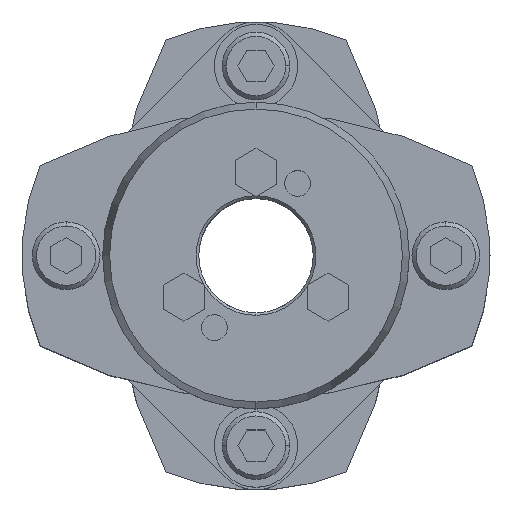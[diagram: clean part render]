
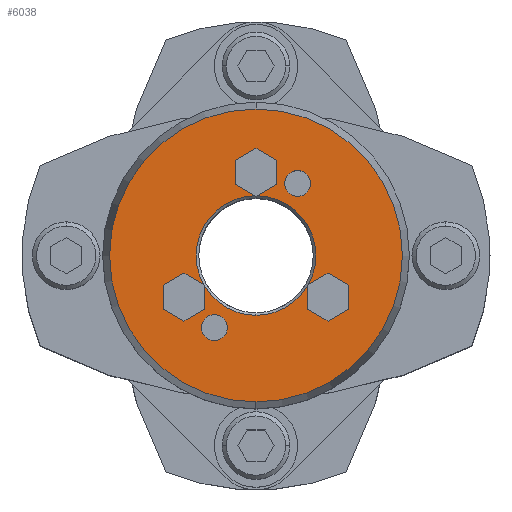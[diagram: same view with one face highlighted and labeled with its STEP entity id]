
A CAD part, top view. The second image highlights one B-rep face of the part: STEP entity #6038.
In plain terms, the highlighted planar face has unit normal (0, 0, 1).
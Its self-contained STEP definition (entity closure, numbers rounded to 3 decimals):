
#1694=CARTESIAN_POINT('',(0.,-11.5,52.0));
#1695=VERTEX_POINT('',#1694);
#1702=CARTESIAN_POINT('',(9.856,-5.925,52.0));
#1703=VERTEX_POINT('',#1702);
#1704=CARTESIAN_POINT('',(0.,0.,52.0));
#1705=DIRECTION('',(0.0,0.0,1.0));
#1706=DIRECTION('',(0.0,1.0,0.0));
#1707=AXIS2_PLACEMENT_3D('',#1704,#1705,#1706);
#1708=CIRCLE('',#1707,11.5);
#1709=EDGE_CURVE('',#1695,#1703,#1708,.T.);
#1711=CARTESIAN_POINT('',(10.059,-5.574,52.0));
#1712=VERTEX_POINT('',#1711);
#1720=CARTESIAN_POINT('',(0.203,11.498,52.0));
#1721=VERTEX_POINT('',#1720);
#1722=CARTESIAN_POINT('',(0.,0.,52.0));
#1723=DIRECTION('',(0.0,0.0,1.0));
#1724=DIRECTION('',(0.0,1.0,0.0));
#1725=AXIS2_PLACEMENT_3D('',#1722,#1723,#1724);
#1726=CIRCLE('',#1725,11.5);
#1727=EDGE_CURVE('',#1712,#1721,#1726,.T.);
#1892=CARTESIAN_POINT('',(0.,-28.16,52.0));
#1893=VERTEX_POINT('',#1892);
#1900=CARTESIAN_POINT('',(0.,28.16,52.0));
#1901=VERTEX_POINT('',#1900);
#1902=CARTESIAN_POINT('',(0.,0.,52.0));
#1903=DIRECTION('',(0.0,0.0,-1.0));
#1904=DIRECTION('',(0.0,-1.0,0.0));
#1905=AXIS2_PLACEMENT_3D('',#1902,#1903,#1904);
#1906=CIRCLE('',#1905,28.16);
#1907=EDGE_CURVE('',#1893,#1901,#1906,.T.);
#2150=CARTESIAN_POINT('',(8.,16.356,52.0));
#2151=VERTEX_POINT('',#2150);
#2167=CARTESIAN_POINT('',(8.,11.356,52.0));
#2168=VERTEX_POINT('',#2167);
#2175=CARTESIAN_POINT('',(8.,13.856,52.0));
#2176=DIRECTION('',(0.0,0.0,-1.0));
#2177=DIRECTION('',(0.0,1.0,0.0));
#2178=AXIS2_PLACEMENT_3D('',#2175,#2176,#2177);
#2179=CIRCLE('',#2178,2.5);
#2180=EDGE_CURVE('',#2151,#2168,#2179,.T.);
#2192=CARTESIAN_POINT('',(-8.,-11.356,52.0));
#2193=VERTEX_POINT('',#2192);
#2209=CARTESIAN_POINT('',(-8.,-16.356,52.0));
#2210=VERTEX_POINT('',#2209);
#2217=CARTESIAN_POINT('',(-8.,-13.856,52.0));
#2218=DIRECTION('',(0.0,0.0,-1.0));
#2219=DIRECTION('',(0.0,1.0,0.0));
#2220=AXIS2_PLACEMENT_3D('',#2217,#2218,#2219);
#2221=CIRCLE('',#2220,2.5);
#2222=EDGE_CURVE('',#2193,#2210,#2221,.T.);
#4464=CARTESIAN_POINT('',(13.856,-3.381,52.0));
#4465=VERTEX_POINT('',#4464);
#4472=CARTESIAN_POINT('',(10.059,-5.574,52.0));
#4473=DIRECTION('',(0.866,0.5,0.0));
#4474=VECTOR('',#4473,4.385);
#4475=LINE('',#4472,#4474);
#4476=EDGE_CURVE('',#1712,#4465,#4475,.T.);
#4508=CARTESIAN_POINT('',(17.856,-5.691,52.0));
#4509=VERTEX_POINT('',#4508);
#4516=CARTESIAN_POINT('',(13.856,-3.381,52.0));
#4517=DIRECTION('',(0.866,-0.5,0.0));
#4518=VECTOR('',#4517,4.619);
#4519=LINE('',#4516,#4518);
#4520=EDGE_CURVE('',#4465,#4509,#4519,.T.);
#4539=CARTESIAN_POINT('',(17.856,-10.309,52.0));
#4540=VERTEX_POINT('',#4539);
#4547=CARTESIAN_POINT('',(17.856,-5.691,52.0));
#4548=DIRECTION('',(0.0,-1.0,0.0));
#4549=VECTOR('',#4548,4.619);
#4550=LINE('',#4547,#4549);
#4551=EDGE_CURVE('',#4509,#4540,#4550,.T.);
#4570=CARTESIAN_POINT('',(13.856,-12.619,52.0));
#4571=VERTEX_POINT('',#4570);
#4578=CARTESIAN_POINT('',(17.856,-10.309,52.0));
#4579=DIRECTION('',(-0.866,-0.5,0.0));
#4580=VECTOR('',#4579,4.619);
#4581=LINE('',#4578,#4580);
#4582=EDGE_CURVE('',#4540,#4571,#4581,.T.);
#4601=CARTESIAN_POINT('',(9.856,-10.309,52.0));
#4602=VERTEX_POINT('',#4601);
#4609=CARTESIAN_POINT('',(13.856,-12.619,52.0));
#4610=DIRECTION('',(-0.866,0.5,0.0));
#4611=VECTOR('',#4610,4.619);
#4612=LINE('',#4609,#4611);
#4613=EDGE_CURVE('',#4571,#4602,#4612,.T.);
#4637=CARTESIAN_POINT('',(9.856,-10.309,52.0));
#4638=DIRECTION('',(0.0,1.0,0.0));
#4639=VECTOR('',#4638,4.385);
#4640=LINE('',#4637,#4639);
#4641=EDGE_CURVE('',#4602,#1703,#4640,.T.);
#4687=CARTESIAN_POINT('',(0.,20.619,52.0));
#4688=VERTEX_POINT('',#4687);
#4695=CARTESIAN_POINT('',(-4.,18.309,52.0));
#4696=VERTEX_POINT('',#4695);
#4697=CARTESIAN_POINT('',(-4.,18.309,52.0));
#4698=DIRECTION('',(0.866,0.5,0.0));
#4699=VECTOR('',#4698,4.619);
#4700=LINE('',#4697,#4699);
#4701=EDGE_CURVE('',#4696,#4688,#4700,.T.);
#4725=CARTESIAN_POINT('',(4.,18.309,52.0));
#4726=VERTEX_POINT('',#4725);
#4733=CARTESIAN_POINT('',(0.,20.619,52.0));
#4734=DIRECTION('',(0.866,-0.5,0.0));
#4735=VECTOR('',#4734,4.619);
#4736=LINE('',#4733,#4735);
#4737=EDGE_CURVE('',#4688,#4726,#4736,.T.);
#4756=CARTESIAN_POINT('',(4.,13.691,52.0));
#4757=VERTEX_POINT('',#4756);
#4764=CARTESIAN_POINT('',(4.,18.309,52.0));
#4765=DIRECTION('',(0.0,-1.0,0.0));
#4766=VECTOR('',#4765,4.619);
#4767=LINE('',#4764,#4766);
#4768=EDGE_CURVE('',#4726,#4757,#4767,.T.);
#4801=CARTESIAN_POINT('',(4.,13.691,52.0));
#4802=DIRECTION('',(-0.866,-0.5,0.0));
#4803=VECTOR('',#4802,4.385);
#4804=LINE('',#4801,#4803);
#4805=EDGE_CURVE('',#4757,#1721,#4804,.T.);
#4824=CARTESIAN_POINT('',(-4.,13.691,52.0));
#4825=VERTEX_POINT('',#4824);
#4832=CARTESIAN_POINT('',(-0.203,11.498,52.0));
#4833=VERTEX_POINT('',#4832);
#4834=CARTESIAN_POINT('',(-0.203,11.498,52.0));
#4835=DIRECTION('',(-0.866,0.5,0.0));
#4836=VECTOR('',#4835,4.385);
#4837=LINE('',#4834,#4836);
#4838=EDGE_CURVE('',#4833,#4825,#4837,.T.);
#4862=CARTESIAN_POINT('',(-4.,13.691,52.0));
#4863=DIRECTION('',(0.0,1.0,0.0));
#4864=VECTOR('',#4863,4.619);
#4865=LINE('',#4862,#4864);
#4866=EDGE_CURVE('',#4825,#4696,#4865,.T.);
#4919=CARTESIAN_POINT('',(-13.856,-3.381,52.0));
#4920=VERTEX_POINT('',#4919);
#4927=CARTESIAN_POINT('',(-17.856,-5.691,52.0));
#4928=VERTEX_POINT('',#4927);
#4929=CARTESIAN_POINT('',(-17.856,-5.691,52.0));
#4930=DIRECTION('',(0.866,0.5,0.0));
#4931=VECTOR('',#4930,4.619);
#4932=LINE('',#4929,#4931);
#4933=EDGE_CURVE('',#4928,#4920,#4932,.T.);
#4965=CARTESIAN_POINT('',(-10.059,-5.574,52.0));
#4966=VERTEX_POINT('',#4965);
#4973=CARTESIAN_POINT('',(-13.856,-3.381,52.0));
#4974=DIRECTION('',(0.866,-0.5,0.0));
#4975=VECTOR('',#4974,4.385);
#4976=LINE('',#4973,#4975);
#4977=EDGE_CURVE('',#4920,#4966,#4976,.T.);
#4996=CARTESIAN_POINT('',(-9.856,-10.309,52.0));
#4997=VERTEX_POINT('',#4996);
#5004=CARTESIAN_POINT('',(-9.856,-5.925,52.0));
#5005=VERTEX_POINT('',#5004);
#5006=CARTESIAN_POINT('',(-9.856,-5.925,52.0));
#5007=DIRECTION('',(0.0,-1.0,0.0));
#5008=VECTOR('',#5007,4.385);
#5009=LINE('',#5006,#5008);
#5010=EDGE_CURVE('',#5005,#4997,#5009,.T.);
#5035=CARTESIAN_POINT('',(-13.856,-12.619,52.0));
#5036=VERTEX_POINT('',#5035);
#5043=CARTESIAN_POINT('',(-9.856,-10.309,52.0));
#5044=DIRECTION('',(-0.866,-0.5,0.0));
#5045=VECTOR('',#5044,4.619);
#5046=LINE('',#5043,#5045);
#5047=EDGE_CURVE('',#4997,#5036,#5046,.T.);
#5066=CARTESIAN_POINT('',(-17.856,-10.309,52.0));
#5067=VERTEX_POINT('',#5066);
#5074=CARTESIAN_POINT('',(-13.856,-12.619,52.0));
#5075=DIRECTION('',(-0.866,0.5,0.0));
#5076=VECTOR('',#5075,4.619);
#5077=LINE('',#5074,#5076);
#5078=EDGE_CURVE('',#5036,#5067,#5077,.T.);
#5096=CARTESIAN_POINT('',(-17.856,-10.309,52.0));
#5097=DIRECTION('',(0.0,1.0,0.0));
#5098=VECTOR('',#5097,4.619);
#5099=LINE('',#5096,#5098);
#5100=EDGE_CURVE('',#5067,#4928,#5099,.T.);
#5143=CARTESIAN_POINT('',(-8.,-13.856,52.0));
#5144=DIRECTION('',(0.0,0.0,-1.0));
#5145=DIRECTION('',(0.0,1.0,0.0));
#5146=AXIS2_PLACEMENT_3D('',#5143,#5144,#5145);
#5147=CIRCLE('',#5146,2.5);
#5148=EDGE_CURVE('',#2210,#2193,#5147,.T.);
#5177=CARTESIAN_POINT('',(8.,13.856,52.0));
#5178=DIRECTION('',(0.0,0.0,-1.0));
#5179=DIRECTION('',(0.0,1.0,0.0));
#5180=AXIS2_PLACEMENT_3D('',#5177,#5178,#5179);
#5181=CIRCLE('',#5180,2.5);
#5182=EDGE_CURVE('',#2168,#2151,#5181,.T.);
#5975=CARTESIAN_POINT('',(0.,0.,52.0));
#5976=DIRECTION('',(0.0,0.0,-1.0));
#5977=DIRECTION('',(0.0,-1.0,0.0));
#5978=AXIS2_PLACEMENT_3D('',#5975,#5976,#5977);
#5979=CIRCLE('',#5978,28.16);
#5980=EDGE_CURVE('',#1901,#1893,#5979,.T.);
#5985=CARTESIAN_POINT('',(0.,2.682,52.0));
#5986=DIRECTION('',(0.0,0.0,1.0));
#5987=DIRECTION('',(0.0,1.0,0.0));
#5988=AXIS2_PLACEMENT_3D('',#5985,#5986,#5987);
#5989=PLANE('',#5988);
#5990=ORIENTED_EDGE('',*,*,#5980,.F.);
#5991=ORIENTED_EDGE('',*,*,#1907,.F.);
#5992=EDGE_LOOP('',(#5990,#5991));
#5993=FACE_OUTER_BOUND('',#5992,.T.);
#5994=ORIENTED_EDGE('',*,*,#4641,.T.);
#5995=ORIENTED_EDGE('',*,*,#1709,.F.);
#5996=CARTESIAN_POINT('',(0.,0.,52.0));
#5997=DIRECTION('',(0.0,0.0,1.0));
#5998=DIRECTION('',(0.0,1.0,0.0));
#5999=AXIS2_PLACEMENT_3D('',#5996,#5997,#5998);
#6000=CIRCLE('',#5999,11.5);
#6001=EDGE_CURVE('',#5005,#1695,#6000,.T.);
#6002=ORIENTED_EDGE('',*,*,#6001,.F.);
#6003=ORIENTED_EDGE('',*,*,#5010,.T.);
#6004=ORIENTED_EDGE('',*,*,#5047,.T.);
#6005=ORIENTED_EDGE('',*,*,#5078,.T.);
#6006=ORIENTED_EDGE('',*,*,#5100,.T.);
#6007=ORIENTED_EDGE('',*,*,#4933,.T.);
#6008=ORIENTED_EDGE('',*,*,#4977,.T.);
#6009=CARTESIAN_POINT('',(0.,0.,52.0));
#6010=DIRECTION('',(0.0,0.0,1.0));
#6011=DIRECTION('',(0.0,1.0,0.0));
#6012=AXIS2_PLACEMENT_3D('',#6009,#6010,#6011);
#6013=CIRCLE('',#6012,11.5);
#6014=EDGE_CURVE('',#4833,#4966,#6013,.T.);
#6015=ORIENTED_EDGE('',*,*,#6014,.F.);
#6016=ORIENTED_EDGE('',*,*,#4838,.T.);
#6017=ORIENTED_EDGE('',*,*,#4866,.T.);
#6018=ORIENTED_EDGE('',*,*,#4701,.T.);
#6019=ORIENTED_EDGE('',*,*,#4737,.T.);
#6020=ORIENTED_EDGE('',*,*,#4768,.T.);
#6021=ORIENTED_EDGE('',*,*,#4805,.T.);
#6022=ORIENTED_EDGE('',*,*,#1727,.F.);
#6023=ORIENTED_EDGE('',*,*,#4476,.T.);
#6024=ORIENTED_EDGE('',*,*,#4520,.T.);
#6025=ORIENTED_EDGE('',*,*,#4551,.T.);
#6026=ORIENTED_EDGE('',*,*,#4582,.T.);
#6027=ORIENTED_EDGE('',*,*,#4613,.T.);
#6028=EDGE_LOOP('',(#5994,#5995,#6002,#6003,#6004,#6005,#6006,#6007,#6008,#6015,#6016,#6017,#6018,#6019,#6020,#6021,#6022,#6023,#6024,#6025,#6026,#6027));
#6029=FACE_BOUND('',#6028,.T.);
#6030=ORIENTED_EDGE('',*,*,#2222,.T.);
#6031=ORIENTED_EDGE('',*,*,#5148,.T.);
#6032=EDGE_LOOP('',(#6030,#6031));
#6033=FACE_BOUND('',#6032,.T.);
#6034=ORIENTED_EDGE('',*,*,#2180,.T.);
#6035=ORIENTED_EDGE('',*,*,#5182,.T.);
#6036=EDGE_LOOP('',(#6034,#6035));
#6037=FACE_BOUND('',#6036,.T.);
#6038=ADVANCED_FACE('',(#5993,#6029,#6033,#6037),#5989,.T.);
